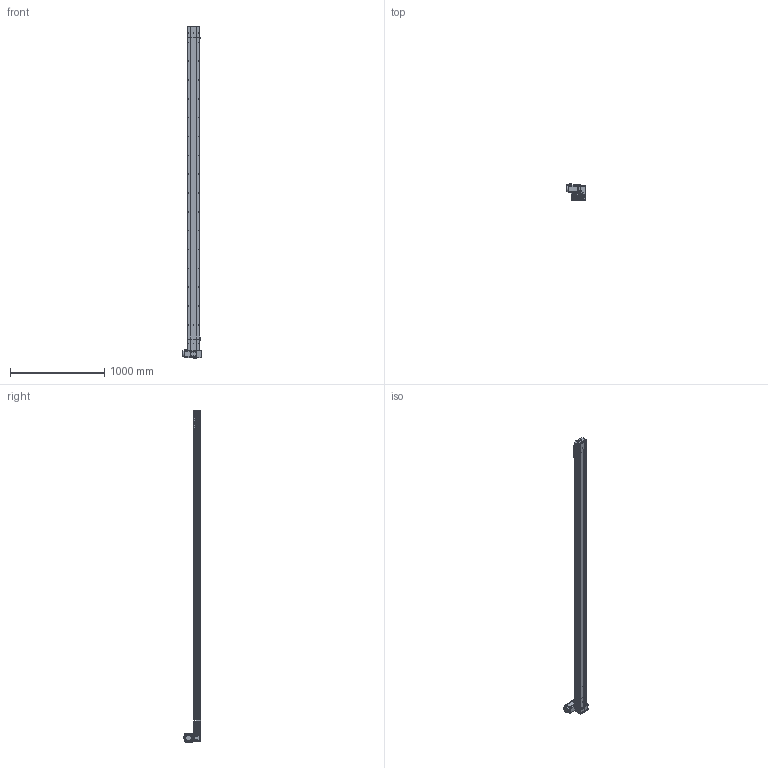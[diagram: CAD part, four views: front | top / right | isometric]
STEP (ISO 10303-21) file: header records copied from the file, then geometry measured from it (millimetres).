
FILE_DESCRIPTION (( 'STEP AP214' ), '1' );
FILE_NAME ('D14 TBH LT S3200.STEP', '2010-06-29T14:51:34', ( 'Conseil Régional Haute-Normandie' ), ( 'Conseil Régional Haute-Normandie' ), 'SwSTEP 2.0', 'SolidWorks 2010', '' );
FILE_SCHEMA (( 'AUTOMOTIVE_DESIGN' ));
Length unit declared in the file: millimetre
Products named in the file (39): D14 TB H LT_Default; vis M5 L5_Default; corps 90BLDC100A-640; Conecteur2_Default; poulie head_Default; codeur 90BLDC100-640; corp head D14_Default; couroie 2_Default; Arbre+rail head D14; Moteur motionking 90BLDC100A-640; renvoi LH_Default; plaque de  bout head D14 LT_Default; Cache_Default; Plaque racord D14_Default; Conecteur_Default; couvercle D14 head_Default; Cache arbre_Default; avant 90BLDC100A-640; Cvis M5 L70_Default; chariot D14B_Default; vis M5 L12_Default; Vis M5 L16-2_Default; guide D14; Chariot D14; Couroie_Default; Arbre+rail tail D14; D14 couroie L3200_Default; poulie tail_Default; vis M5 L8 90°_Default; couvercle D14_Default; plaque de  bout tail D14_Default; tete d''axe haut D14; Rail + couroie D14 Course 3200 ; D14 TBH LT S3200; corpl 3200_Default; corpl tail D14_Default; Tail D14B_Default; couvercle D14 course L3200_Default; vis M5 L16_Default
Assembly tree (68 placements, depth 4):
  D14 TBH LT S3200
    D14 TB H LT_Default
      vis M5 L5_Default  x2
      Moteur motionking 90BLDC100A-640
        Conecteur2_Default
        Conecteur_Default
        corps 90BLDC100A-640
        avant 90BLDC100A-640
        codeur 90BLDC100-640
      Cache_Default  x2
      Vis M5 L16-2_Default  x4
      vis M5 L12_Default  x12
      Cvis M5 L70_Default  x4
      corp head D14_Default
      Plaque racord D14_Default
      poulie head_Default
      renvoi LH_Default
      plaque de  bout head D14 LT_Default
      couroie 2_Default
      Cache arbre_Default
      Arbre+rail head D14
      couvercle D14 head_Default
    Tail D14B_Default
      corpl tail D14_Default
      vis M5 L12_Default  x4
      plaque de  bout tail D14_Default
      vis M5 L8 90°_Default  x2
      tete d''axe haut D14
      Arbre+rail tail D14
      vis M5 L16_Default  x2
      couvercle D14_Default
      Couroie_Default
      poulie tail_Default
    D14 couroie L3200_Default
      corpl 3200_Default
      Rail + couroie D14 Course 3200 
      couvercle D14 course L3200_Default
    chariot D14B_Default
      vis M5 L12_Default  x4
      Chariot D14
      guide D14  x2
Bounding box: 207.2 x 189.1 x 3525.75 mm (x, y, z)
Volume: 12767949.9 mm3; surface area: 4708902.5 mm2
Topology: 92 solids, 92 shells, 2789 faces, 6791 edges, 4386 vertices
Faces by surface type: plane 1629, cylinder 847, bspline 136, torus 89, cone 84, sphere 4
Entity records: 83852 total; most frequent: CARTESIAN_POINT 24305, ORIENTED_EDGE 10442, DIRECTION 10416, EDGE_CURVE 5221, AXIS2_PLACEMENT_3D 3511, VERTEX_POINT 3436, VECTOR 3394, LINE 3394
